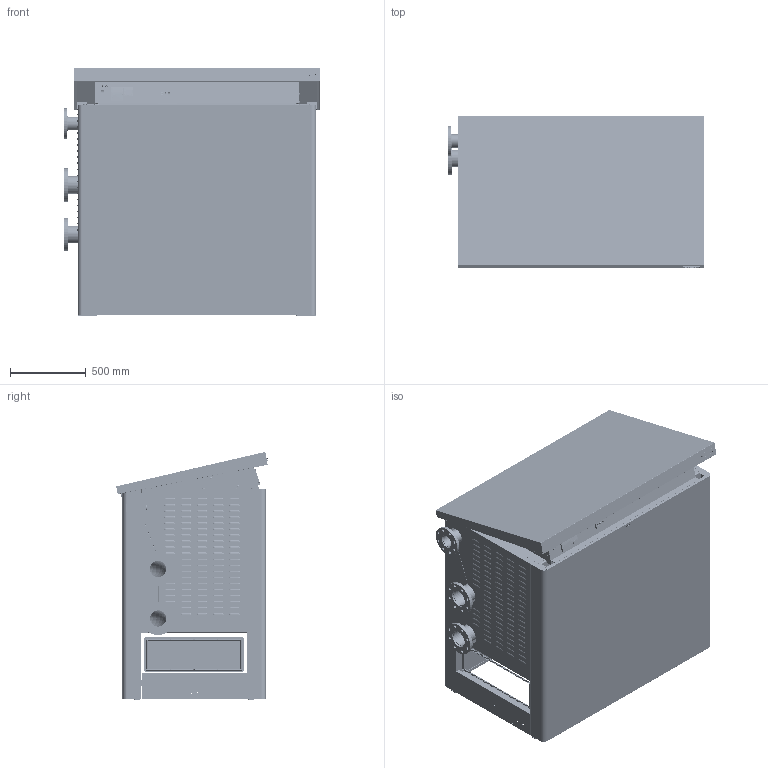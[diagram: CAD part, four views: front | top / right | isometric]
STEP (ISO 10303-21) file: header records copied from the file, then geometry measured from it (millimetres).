
FILE_DESCRIPTION( ( 'Unknown' ), '1' );
FILE_NAME( 'C:/Users/Gaboardi Damiano/Desktop/MODULEX STEP/50010240.stp', 'Unknown', ( 'Unknown' ), ( 'Unknown' ), 'PSStep 17.0.49', 'Unknown', ' ' );
FILE_SCHEMA( ( 'AUTOMOTIVE_DESIGN { 1 0 10303 214 1 1 1 1 }' ) );
Length unit declared in the file: millimetre
Products named in the file (348): 00630157; MORSETTIERA_Y1; MORSETTIERA_Y2; MORSETTIERA_Y4_BCM; MORSETTIERA_Y3; 39917-oa78; CURVA uni 7287 DN100-oa71; Saldatura d'angolo 4-oa72; Saldatura d'angolo 5-oa73; Saldatura d'angolo 6-oa74; Saldatura d'angolo 12-oa75; Saldatura d'angolo 7-oa76; Saldatura d'angolo 8-oa77; 24489; 00282410-4; 00213359-5-oa17; 00213359-5-oa16; 00262007; 2007-2; 2007-2-oa29; 2007-3; 2007-1; 00213537; inserto M3; 00262213; 00262213_2; 00262213_5; 00262213_6; 00262213_1; 00262213_3; 00262213_4; 88110094; 00310823; 00261109; 00262429; 00262522; 00262426; 00213359-4-oa15; 00213359-4-oa14; 00213359-4-oa13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
Assembly tree (483 placements, depth 6):
  Saldatura d'angolo 4-oa72
  Saldatura d'angolo 5-oa73
  Saldatura d'angolo 5-oa73
  Saldatura d'angolo 5-oa73
  Saldatura d'angolo 5-oa73
Bounding box: 1685.5 x 1000.6 x 1639.14 mm (x, y, z)
Volume: 51514491.1 mm3; surface area: 52569569.4 mm2
Topology: 727 solids, 1005 shells, 19466 faces, 52634 edges, 34694 vertices
Faces by surface type: plane 13316, cylinder 3546, sphere 886, extrusion 808, cone 390, bspline 365, torus 133, revolution 22
Full cylindrical faces by diameter (mm): 0.4 x2, 1 x36, 1.5 x9, 2 x40, 2.459 x2, 2.5 x6, 3 x52, 3.2 x27, 3.242 x64, 3.5 x16, 3.7 x40, 3.8 x32, 3.9 x1, 4 x85, 4.134 x51, 4.2 x164, 4.3 x8, 4.5 x2, 4.7 x2, 4.8 x16, 4.917 x17, 5 x60, 5.1 x52, 5.2 x4, 5.3 x4, 5.5 x35, 6 x59, 6.2 x12, 6.4 x12, 6.5 x1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
Entity records: 485646 total; most frequent: CARTESIAN_POINT 107764, ORIENTED_EDGE 57973, DIRECTION 55685, EDGE_CURVE 29303, VECTOR 20379, VERTEX_POINT 19808, LINE 19571, AXIS2_PLACEMENT_3D 17651
